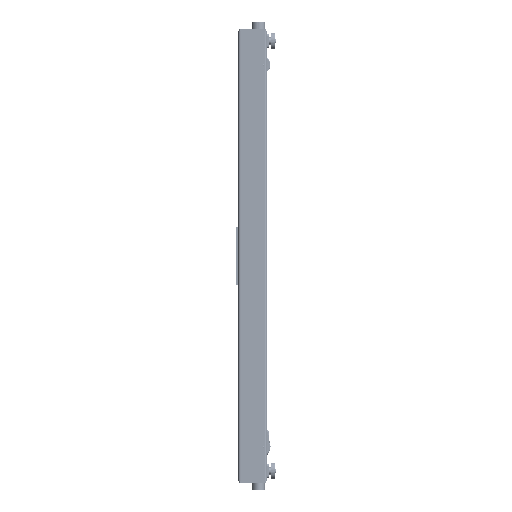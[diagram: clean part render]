
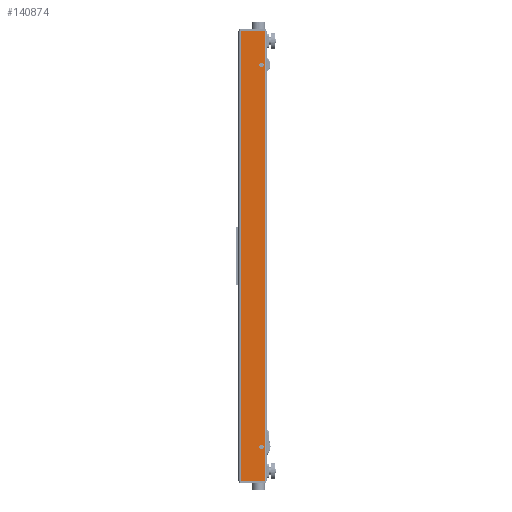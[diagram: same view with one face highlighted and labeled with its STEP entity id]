
A CAD part, left-side view. The second image highlights one B-rep face of the part: STEP entity #140874.
In plain terms, the highlighted planar face has unit normal (-1, 0, 0).
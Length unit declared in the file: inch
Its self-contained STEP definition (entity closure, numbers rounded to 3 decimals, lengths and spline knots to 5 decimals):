
#1863 = CARTESIAN_POINT ( 'NONE',  ( 0., 0.5, -47.0625 ) ) ;
#3636 = ORIENTED_EDGE ( 'NONE', *, *, #11707, .T. ) ;
#4923 = CARTESIAN_POINT ( 'NONE',  ( 0., 1.145, 40.0005 ) ) ;
#11262 = EDGE_CURVE ( 'NONE', #139546, #149392, #126132, .T. ) ;
#11707 = EDGE_CURVE ( 'NONE', #27916, #113338, #162318, .T. ) ;
#13242 = DIRECTION ( 'NONE',  ( 1., 0., 0. ) ) ;
#15714 = ORIENTED_EDGE ( 'NONE', *, *, #32599, .T. ) ;
#17640 = EDGE_LOOP ( 'NONE', ( #26837, #47805, #85813, #42439 ) ) ;
#17851 = CARTESIAN_POINT ( 'NONE',  ( 0., 0.5, 47.0625 ) ) ;
#18787 = PLANE ( 'NONE',  #151968 ) ;
#19179 = ORIENTED_EDGE ( 'NONE', *, *, #24741, .T. ) ;
#21572 = CARTESIAN_POINT ( 'NONE',  ( 0., 0.6525, -40.0005 ) ) ;
#24741 = EDGE_CURVE ( 'NONE', #149392, #139546, #160467, .T. ) ;
#26033 = VERTEX_POINT ( 'NONE', #141227 ) ;
#26697 = CARTESIAN_POINT ( 'NONE',  ( 0., 1.145, -40.0005 ) ) ;
#26837 = ORIENTED_EDGE ( 'NONE', *, *, #60659, .T. ) ;
#27916 = VERTEX_POINT ( 'NONE', #21572 ) ;
#30592 = FACE_BOUND ( 'NONE', #36078, .T. ) ;
#32534 = CARTESIAN_POINT ( 'NONE',  ( 0., 0.5, 47.0625 ) ) ;
#32599 = EDGE_CURVE ( 'NONE', #113338, #27916, #41773, .T. ) ;
#36078 = EDGE_LOOP ( 'NONE', ( #15714, #3636 ) ) ;
#37953 = CARTESIAN_POINT ( 'NONE',  ( 0., 0.6525, 40.0005 ) ) ;
#39870 = CARTESIAN_POINT ( 'NONE',  ( 0., 1.145, 40.0005 ) ) ;
#40261 = CARTESIAN_POINT ( 'NONE',  ( 0., 0.5, 47.0625 ) ) ;
#40417 = VECTOR ( 'NONE', #104251, 39.37008 ) ;
#41773 = CIRCLE ( 'NONE', #157417, 0.4925 ) ;
#42382 = DIRECTION ( 'NONE',  ( 1., 0., 0. ) ) ;
#42439 = ORIENTED_EDGE ( 'NONE', *, *, #134399, .T. ) ;
#45383 = DIRECTION ( 'NONE',  ( 0., 0., -1. ) ) ;
#46146 = DIRECTION ( 'NONE',  ( 1., 0., 0. ) ) ;
#46298 = EDGE_CURVE ( 'NONE', #146468, #52703, #157259, .T. ) ;
#47805 = ORIENTED_EDGE ( 'NONE', *, *, #121196, .F. ) ;
#52703 = VERTEX_POINT ( 'NONE', #17851 ) ;
#58672 = LINE ( 'NONE', #32534, #163886 ) ;
#60659 = EDGE_CURVE ( 'NONE', #26033, #83101, #80948, .T. ) ;
#61002 = AXIS2_PLACEMENT_3D ( 'NONE', #4923, #46146, #121927 ) ;
#61902 = DIRECTION ( 'NONE',  ( 1., 0., 0. ) ) ;
#66250 = DIRECTION ( 'NONE',  ( 0., 1., 0. ) ) ;
#70168 = FACE_BOUND ( 'NONE', #83310, .T. ) ;
#74693 = VECTOR ( 'NONE', #155917, 39.37008 ) ;
#78364 = CARTESIAN_POINT ( 'NONE',  ( 0., 0.5, -47.0625 ) ) ;
#79416 = DIRECTION ( 'NONE',  ( 1., 0., 0. ) ) ;
#80948 = LINE ( 'NONE', #1863, #74693 ) ;
#82964 = CARTESIAN_POINT ( 'NONE',  ( 0., 1.6375, 40.0005 ) ) ;
#83101 = VERTEX_POINT ( 'NONE', #78364 ) ;
#83310 = EDGE_LOOP ( 'NONE', ( #117328, #19179 ) ) ;
#85813 = ORIENTED_EDGE ( 'NONE', *, *, #46298, .F. ) ;
#89752 = AXIS2_PLACEMENT_3D ( 'NONE', #111532, #61902, #114861 ) ;
#91228 = DIRECTION ( 'NONE',  ( 0., 1., 0. ) ) ;
#97089 = CARTESIAN_POINT ( 'NONE',  ( 0., 1.6375, -40.0005 ) ) ;
#104251 = DIRECTION ( 'NONE',  ( 0., -1., 0. ) ) ;
#110201 = LINE ( 'NONE', #160728, #115654 ) ;
#111532 = CARTESIAN_POINT ( 'NONE',  ( 0., 1.145, -40.0005 ) ) ;
#113338 = VERTEX_POINT ( 'NONE', #97089 ) ;
#114861 = DIRECTION ( 'NONE',  ( 0., 1., 0. ) ) ;
#115654 = VECTOR ( 'NONE', #45383, 39.37008 ) ;
#117328 = ORIENTED_EDGE ( 'NONE', *, *, #11262, .T. ) ;
#121196 = EDGE_CURVE ( 'NONE', #52703, #83101, #58672, .T. ) ;
#121495 = DIRECTION ( 'NONE',  ( 0., 1., 0. ) ) ;
#121927 = DIRECTION ( 'NONE',  ( 0., 1., 0. ) ) ;
#123950 = CARTESIAN_POINT ( 'NONE',  ( 0., 5.5, 47.0625 ) ) ;
#126132 = CIRCLE ( 'NONE', #147613, 0.4925 ) ;
#134141 = CARTESIAN_POINT ( 'NONE',  ( 0., 0.5, 47.0625 ) ) ;
#134399 = EDGE_CURVE ( 'NONE', #146468, #26033, #110201, .T. ) ;
#136074 = DIRECTION ( 'NONE',  ( 0., 0., -1. ) ) ;
#139546 = VERTEX_POINT ( 'NONE', #82964 ) ;
#140874 = ADVANCED_FACE ( 'NONE', ( #70168, #30592, #159405 ), #18787, .F. ) ;
#141227 = CARTESIAN_POINT ( 'NONE',  ( 0., 5.5, -47.0625 ) ) ;
#146468 = VERTEX_POINT ( 'NONE', #123950 ) ;
#147613 = AXIS2_PLACEMENT_3D ( 'NONE', #39870, #79416, #91228 ) ;
#149392 = VERTEX_POINT ( 'NONE', #37953 ) ;
#151968 = AXIS2_PLACEMENT_3D ( 'NONE', #134141, #42382, #121495 ) ;
#155917 = DIRECTION ( 'NONE',  ( 0., -1., 0. ) ) ;
#157259 = LINE ( 'NONE', #40261, #40417 ) ;
#157417 = AXIS2_PLACEMENT_3D ( 'NONE', #26697, #13242, #66250 ) ;
#159405 = FACE_OUTER_BOUND ( 'NONE', #17640, .T. ) ;
#160467 = CIRCLE ( 'NONE', #61002, 0.4925 ) ;
#160728 = CARTESIAN_POINT ( 'NONE',  ( 0., 5.5, 47.0625 ) ) ;
#162318 = CIRCLE ( 'NONE', #89752, 0.4925 ) ;
#163886 = VECTOR ( 'NONE', #136074, 39.37008 ) ;
